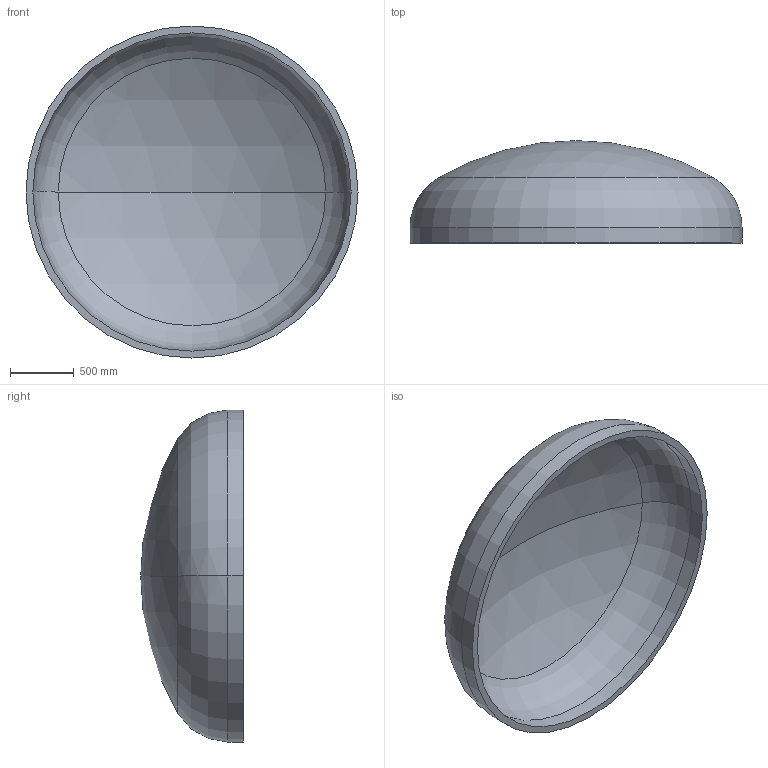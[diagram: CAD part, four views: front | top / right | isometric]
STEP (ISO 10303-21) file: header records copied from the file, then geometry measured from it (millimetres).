
FILE_DESCRIPTION (( 'STEP AP203' ), '1' );
FILE_NAME ('DIN 28013 Korbbogenform_-_Boden DIN 28013 - 2600 x 120 - I - s=54.step', '2016-07-01T16:17:14', ( '' ), ( '' ), 'SwSTEP 2.0', 'SolidWorks 2013', '' );
FILE_SCHEMA (( 'CONFIG_CONTROL_DESIGN' ));
Length unit declared in the file: millimetre
Products named in the file (1): DIN 28013 Korbbogenform_-_Boden DIN 28013 - 2600 x 120 - I - s=54
Bounding box: 2600 x 802.56 x 2600 mm (x, y, z)
Volume: 438126932.5 mm3; surface area: 16664944 mm2
Topology: 1 solids, 1 shells, 13 faces, 24 edges, 14 vertices
Faces by surface type: torus 4, cylinder 4, sphere 4, plane 1
Entity records: 407 total; most frequent: DIRECTION 72, CARTESIAN_POINT 52, ORIENTED_EDGE 48, AXIS2_PLACEMENT_3D 34, EDGE_CURVE 24, CIRCLE 20, EDGE_LOOP 14, VERTEX_POINT 14
